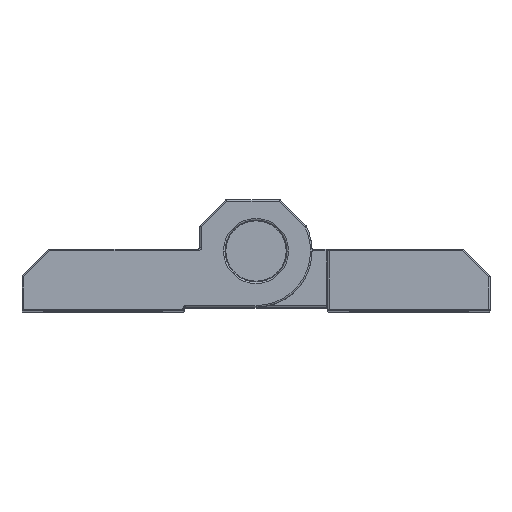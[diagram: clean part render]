
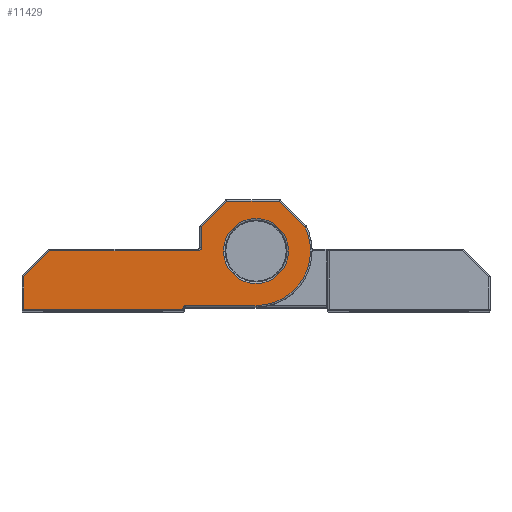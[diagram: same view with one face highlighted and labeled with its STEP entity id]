
A CAD part, top view. The second image highlights one B-rep face of the part: STEP entity #11429.
In plain terms, the highlighted planar face has unit normal (0, 0, 1).
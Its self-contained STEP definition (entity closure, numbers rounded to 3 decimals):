
#381 = VERTEX_POINT ( 'NONE', #6204 ) ;
#491 = LINE ( 'NONE', #17327, #16721 ) ;
#682 = CARTESIAN_POINT ( 'NONE',  ( 7.05, 7.75, 44.5 ) ) ;
#721 = ORIENTED_EDGE ( 'NONE', *, *, #2643, .T. ) ;
#755 = VERTEX_POINT ( 'NONE', #13894 ) ;
#845 = EDGE_LOOP ( 'NONE', ( #15027, #1213, #12169, #15968, #7867, #7208, #11296, #12725, #10366, #721, #9160, #16581, #2363, #7732 ) ) ;
#895 = EDGE_CURVE ( 'NONE', #10544, #11409, #2254, .T. ) ;
#1142 = DIRECTION ( 'NONE',  ( -0.707, -0.707, 0. ) ) ;
#1213 = ORIENTED_EDGE ( 'NONE', *, *, #4240, .T. ) ;
#1317 = CARTESIAN_POINT ( 'NONE',  ( -13.359, 21.109, 44.5 ) ) ;
#1350 = EDGE_CURVE ( 'NONE', #381, #10544, #13675, .T. ) ;
#1414 = CIRCLE ( 'NONE', #2004, 7.05 ) ;
#1510 = CARTESIAN_POINT ( 'NONE',  ( 0., 7.75, 44.5 ) ) ;
#1548 = DIRECTION ( 'NONE',  ( 0., 0., 1. ) ) ;
#1567 = FACE_BOUND ( 'NONE', #6373, .T. ) ;
#1598 = EDGE_CURVE ( 'NONE', #13617, #5758, #10668, .T. ) ;
#1900 = EDGE_CURVE ( 'NONE', #11409, #755, #7781, .T. ) ;
#2004 = AXIS2_PLACEMENT_3D ( 'NONE', #5930, #1548, #12476 ) ;
#2254 = LINE ( 'NONE', #7803, #10024 ) ;
#2275 = VECTOR ( 'NONE', #1142, 1000. ) ;
#2320 = VECTOR ( 'NONE', #15723, 1000. ) ;
#2363 = ORIENTED_EDGE ( 'NONE', *, *, #10112, .T. ) ;
#2399 = VERTEX_POINT ( 'NONE', #4766 ) ;
#2579 = DIRECTION ( 'NONE',  ( 1., 0., 0. ) ) ;
#2643 = EDGE_CURVE ( 'NONE', #13095, #10201, #1414, .T. ) ;
#2823 = DIRECTION ( 'NONE',  ( -0.707, 0.707, 0. ) ) ;
#3037 = LINE ( 'NONE', #11135, #8132 ) ;
#3325 = EDGE_CURVE ( 'NONE', #3481, #8662, #12655, .T. ) ;
#3343 = VECTOR ( 'NONE', #2823, 1000. ) ;
#3481 = VERTEX_POINT ( 'NONE', #9073 ) ;
#3564 = DIRECTION ( 'NONE',  ( 0., 0., 1. ) ) ;
#3601 = AXIS2_PLACEMENT_3D ( 'NONE', #3752, #12119, #16297 ) ;
#3604 = DIRECTION ( 'NONE',  ( 1., 0., 0. ) ) ;
#3677 = CARTESIAN_POINT ( 'NONE',  ( 0., 14.165, 44.5 ) ) ;
#3752 = CARTESIAN_POINT ( 'NONE',  ( 0., 7.75, 44.5 ) ) ;
#3842 = LINE ( 'NONE', #17859, #16274 ) ;
#4240 = EDGE_CURVE ( 'NONE', #11612, #381, #491, .T. ) ;
#4296 = AXIS2_PLACEMENT_3D ( 'NONE', #6713, #12244, #17803 ) ;
#4309 = CARTESIAN_POINT ( 'NONE',  ( 0., 7.75, 44.5 ) ) ;
#4326 = CARTESIAN_POINT ( 'NONE',  ( -9.05, 0.7, 44.5 ) ) ;
#4459 = EDGE_CURVE ( 'NONE', #10201, #13617, #13641, .T. ) ;
#4463 = AXIS2_PLACEMENT_3D ( 'NONE', #16021, #3564, #17491 ) ;
#4581 = DIRECTION ( 'NONE',  ( 0., 0., 1. ) ) ;
#4752 = CIRCLE ( 'NONE', #4463, 0.4 ) ;
#4766 = CARTESIAN_POINT ( 'NONE',  ( -9.45, 0.3, 44.5 ) ) ;
#4918 = EDGE_CURVE ( 'NONE', #11612, #8662, #4752, .T. ) ;
#5302 = VECTOR ( 'NONE', #12022, 1000. ) ;
#5758 = VERTEX_POINT ( 'NONE', #7775 ) ;
#5930 = CARTESIAN_POINT ( 'NONE',  ( 0., 7.75, 44.5 ) ) ;
#6101 = VERTEX_POINT ( 'NONE', #17140 ) ;
#6204 = CARTESIAN_POINT ( 'NONE',  ( -26.667, 7.8, 44.5 ) ) ;
#6339 = CARTESIAN_POINT ( 'NONE',  ( -9.25, 0.2, 44.5 ) ) ;
#6373 = EDGE_LOOP ( 'NONE', ( #7870, #6835 ) ) ;
#6666 = EDGE_CURVE ( 'NONE', #9539, #2399, #9206, .T. ) ;
#6713 = CARTESIAN_POINT ( 'NONE',  ( -9.05, 0.3, 44.5 ) ) ;
#6835 = ORIENTED_EDGE ( 'NONE', *, *, #10815, .T. ) ;
#7072 = DIRECTION ( 'NONE',  ( 1., 0., 0. ) ) ;
#7208 = ORIENTED_EDGE ( 'NONE', *, *, #9804, .T. ) ;
#7302 = CARTESIAN_POINT ( 'NONE',  ( -30.05, 0.2, 44.5 ) ) ;
#7367 = CIRCLE ( 'NONE', #3601, 4.2 ) ;
#7378 = CARTESIAN_POINT ( 'NONE',  ( 3.033, 14.165, 44.5 ) ) ;
#7435 = CIRCLE ( 'NONE', #13511, 7.05 ) ;
#7732 = ORIENTED_EDGE ( 'NONE', *, *, #3325, .T. ) ;
#7775 = CARTESIAN_POINT ( 'NONE',  ( -3.802, 14.165, 44.5 ) ) ;
#7781 = LINE ( 'NONE', #6339, #14092 ) ;
#7803 = CARTESIAN_POINT ( 'NONE',  ( -30.05, 7.75, 44.5 ) ) ;
#7867 = ORIENTED_EDGE ( 'NONE', *, *, #1900, .T. ) ;
#7870 = ORIENTED_EDGE ( 'NONE', *, *, #8783, .T. ) ;
#8132 = VECTOR ( 'NONE', #10786, 1000. ) ;
#8210 = AXIS2_PLACEMENT_3D ( 'NONE', #1510, #17907, #7072 ) ;
#8388 = PLANE ( 'NONE',  #8812 ) ;
#8459 = VERTEX_POINT ( 'NONE', #14735 ) ;
#8529 = CARTESIAN_POINT ( 'NONE',  ( -7.05, 8.2, 44.5 ) ) ;
#8662 = VERTEX_POINT ( 'NONE', #8529 ) ;
#8783 = EDGE_CURVE ( 'NONE', #6101, #8459, #17532, .T. ) ;
#8812 = AXIS2_PLACEMENT_3D ( 'NONE', #4309, #4581, #14114 ) ;
#9073 = CARTESIAN_POINT ( 'NONE',  ( -7.05, 10.917, 44.5 ) ) ;
#9160 = ORIENTED_EDGE ( 'NONE', *, *, #4459, .T. ) ;
#9206 = CIRCLE ( 'NONE', #4296, 0.4 ) ;
#9539 = VERTEX_POINT ( 'NONE', #4326 ) ;
#9754 = CARTESIAN_POINT ( 'NONE',  ( 0., 7.75, 44.5 ) ) ;
#9804 = EDGE_CURVE ( 'NONE', #755, #2399, #3037, .T. ) ;
#10024 = VECTOR ( 'NONE', #13348, 1000. ) ;
#10112 = EDGE_CURVE ( 'NONE', #5758, #3481, #3842, .T. ) ;
#10201 = VERTEX_POINT ( 'NONE', #16764 ) ;
#10366 = ORIENTED_EDGE ( 'NONE', *, *, #12557, .T. ) ;
#10393 = CARTESIAN_POINT ( 'NONE',  ( 0., 0.7, 44.5 ) ) ;
#10462 = CARTESIAN_POINT ( 'NONE',  ( 0., 0.7, 44.5 ) ) ;
#10544 = VERTEX_POINT ( 'NONE', #16373 ) ;
#10668 = LINE ( 'NONE', #3677, #11607 ) ;
#10786 = DIRECTION ( 'NONE',  ( 0., 1., 0. ) ) ;
#10815 = EDGE_CURVE ( 'NONE', #8459, #6101, #7367, .T. ) ;
#11032 = DIRECTION ( 'NONE',  ( 0., 0., 1. ) ) ;
#11135 = CARTESIAN_POINT ( 'NONE',  ( -9.45, 7.75, 44.5 ) ) ;
#11296 = ORIENTED_EDGE ( 'NONE', *, *, #6666, .F. ) ;
#11409 = VERTEX_POINT ( 'NONE', #7302 ) ;
#11429 = ADVANCED_FACE ( 'NONE', ( #1567, #12948 ), #8388, .T. ) ;
#11607 = VECTOR ( 'NONE', #13308, 1000. ) ;
#11612 = VERTEX_POINT ( 'NONE', #11656 ) ;
#11656 = CARTESIAN_POINT ( 'NONE',  ( -7.45, 7.8, 44.5 ) ) ;
#12022 = DIRECTION ( 'NONE',  ( 1., 0., 0. ) ) ;
#12119 = DIRECTION ( 'NONE',  ( 0., 0., -1. ) ) ;
#12169 = ORIENTED_EDGE ( 'NONE', *, *, #1350, .T. ) ;
#12244 = DIRECTION ( 'NONE',  ( 0., 0., 1. ) ) ;
#12476 = DIRECTION ( 'NONE',  ( 1., 0., 0. ) ) ;
#12557 = EDGE_CURVE ( 'NONE', #16813, #13095, #7435, .T. ) ;
#12655 = LINE ( 'NONE', #16839, #2320 ) ;
#12725 = ORIENTED_EDGE ( 'NONE', *, *, #17690, .T. ) ;
#12948 = FACE_OUTER_BOUND ( 'NONE', #845, .T. ) ;
#13095 = VERTEX_POINT ( 'NONE', #682 ) ;
#13117 = LINE ( 'NONE', #10393, #5302 ) ;
#13308 = DIRECTION ( 'NONE',  ( -1., 0., 0. ) ) ;
#13348 = DIRECTION ( 'NONE',  ( 0., -1., 0. ) ) ;
#13511 = AXIS2_PLACEMENT_3D ( 'NONE', #9754, #11032, #2579 ) ;
#13566 = DIRECTION ( 'NONE',  ( -0.707, -0.707, 0. ) ) ;
#13617 = VERTEX_POINT ( 'NONE', #7378 ) ;
#13641 = LINE ( 'NONE', #16657, #3343 ) ;
#13675 = LINE ( 'NONE', #1317, #2275 ) ;
#13894 = CARTESIAN_POINT ( 'NONE',  ( -9.45, 0.2, 44.5 ) ) ;
#14092 = VECTOR ( 'NONE', #3604, 1000. ) ;
#14114 = DIRECTION ( 'NONE',  ( 1., 0., 0. ) ) ;
#14481 = DIRECTION ( 'NONE',  ( -1., 0., 0. ) ) ;
#14735 = CARTESIAN_POINT ( 'NONE',  ( -4.2, 7.75, 44.5 ) ) ;
#15027 = ORIENTED_EDGE ( 'NONE', *, *, #4918, .F. ) ;
#15723 = DIRECTION ( 'NONE',  ( 0., -1., 0. ) ) ;
#15968 = ORIENTED_EDGE ( 'NONE', *, *, #895, .T. ) ;
#16021 = CARTESIAN_POINT ( 'NONE',  ( -7.45, 8.2, 44.5 ) ) ;
#16274 = VECTOR ( 'NONE', #13566, 1000. ) ;
#16297 = DIRECTION ( 'NONE',  ( 1., 0., 0. ) ) ;
#16373 = CARTESIAN_POINT ( 'NONE',  ( -30.05, 4.417, 44.5 ) ) ;
#16581 = ORIENTED_EDGE ( 'NONE', *, *, #1598, .T. ) ;
#16657 = CARTESIAN_POINT ( 'NONE',  ( 4.724, 12.474, 44.5 ) ) ;
#16721 = VECTOR ( 'NONE', #14481, 1000. ) ;
#16764 = CARTESIAN_POINT ( 'NONE',  ( 6.316, 10.882, 44.5 ) ) ;
#16813 = VERTEX_POINT ( 'NONE', #10462 ) ;
#16839 = CARTESIAN_POINT ( 'NONE',  ( -7.05, 7.75, 44.5 ) ) ;
#17140 = CARTESIAN_POINT ( 'NONE',  ( 4.2, 7.75, 44.5 ) ) ;
#17327 = CARTESIAN_POINT ( 'NONE',  ( 0., 7.8, 44.5 ) ) ;
#17491 = DIRECTION ( 'NONE',  ( 1., 0., 0. ) ) ;
#17532 = CIRCLE ( 'NONE', #8210, 4.2 ) ;
#17690 = EDGE_CURVE ( 'NONE', #9539, #16813, #13117, .T. ) ;
#17803 = DIRECTION ( 'NONE',  ( 1., 0., 0. ) ) ;
#17859 = CARTESIAN_POINT ( 'NONE',  ( -5.109, 12.859, 44.5 ) ) ;
#17907 = DIRECTION ( 'NONE',  ( 0., 0., -1. ) ) ;
